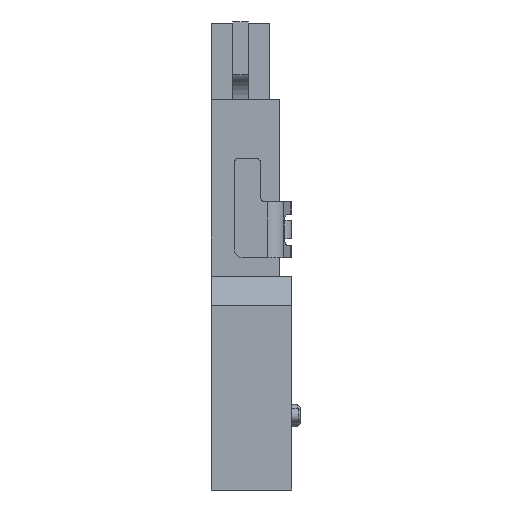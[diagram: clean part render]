
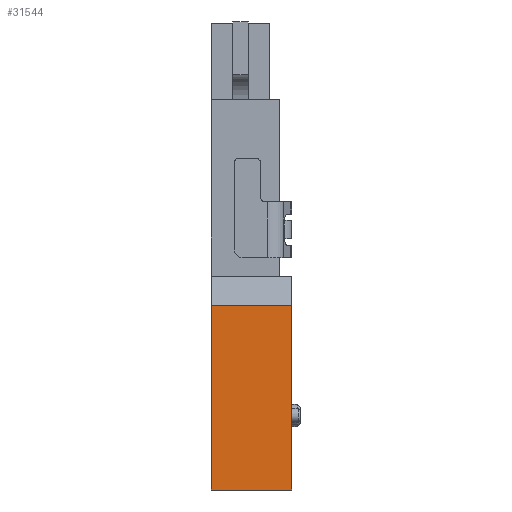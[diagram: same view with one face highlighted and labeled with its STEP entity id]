
A CAD part, left-side view. The second image highlights one B-rep face of the part: STEP entity #31544.
In plain terms, the highlighted planar face has unit normal (-1, 0, 0).
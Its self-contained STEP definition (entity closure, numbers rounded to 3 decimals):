
#31499 = ORIENTED_EDGE ( 'NONE', *, *, #31501, .T. ) ;
#31501 = EDGE_CURVE ( 'NONE', #31537, #31503, #32316, .T. ) ;
#31503 = VERTEX_POINT ( 'NONE', #32308 ) ;
#31505 = ORIENTED_EDGE ( 'NONE', *, *, #31507, .F. ) ;
#31507 = EDGE_CURVE ( 'NONE', #45149, #31503, #32303, .T. ) ;
#31508 = ORIENTED_EDGE ( 'NONE', *, *, #45146, .F. ) ;
#31509 = ORIENTED_EDGE ( 'NONE', *, *, #31540, .T. ) ;
#31537 = VERTEX_POINT ( 'NONE', #32373 ) ;
#31540 = EDGE_CURVE ( 'NONE', #45101, #31537, #32368, .T. ) ;
#31544 = ADVANCED_FACE ( 'NONE', ( #32362 ), #32361, .F. ) ;
#31547 = EDGE_LOOP ( 'NONE', ( #31499, #31505, #31508, #31509 ) ) ;
#32298 = DIRECTION ( 'NONE',  ( 0., -1., 0. ) ) ;
#32300 = VECTOR ( 'NONE', #32298, 1000. ) ;
#32302 = CARTESIAN_POINT ( 'NONE',  ( -35.43, 5.2, 7.077 ) ) ;
#32303 = LINE ( 'NONE', #32302, #32300 ) ;
#32308 = CARTESIAN_POINT ( 'NONE',  ( -35.43, 0., 7.077 ) ) ;
#32311 = DIRECTION ( 'NONE',  ( 0., 0., 1. ) ) ;
#32312 = VECTOR ( 'NONE', #32311, 1000. ) ;
#32314 = CARTESIAN_POINT ( 'NONE',  ( -35.43, 0., -4.8 ) ) ;
#32316 = LINE ( 'NONE', #32314, #32312 ) ;
#32350 = DIRECTION ( 'NONE',  ( 0., 0., -1. ) ) ;
#32351 = DIRECTION ( 'NONE',  ( 1., 0., 0. ) ) ;
#32353 = CARTESIAN_POINT ( 'NONE',  ( -35.43, 5.2, -4.8 ) ) ;
#32359 = AXIS2_PLACEMENT_3D ( 'NONE', #32353, #32351, #32350 ) ;
#32361 = PLANE ( 'NONE',  #32359 ) ;
#32362 = FACE_OUTER_BOUND ( 'NONE', #31547, .T. ) ;
#32364 = DIRECTION ( 'NONE',  ( 0., -1., 0. ) ) ;
#32365 = VECTOR ( 'NONE', #32364, 1000. ) ;
#32366 = CARTESIAN_POINT ( 'NONE',  ( -35.43, 5.2, -4.8 ) ) ;
#32368 = LINE ( 'NONE', #32366, #32365 ) ;
#32373 = CARTESIAN_POINT ( 'NONE',  ( -35.43, 0., -4.8 ) ) ;
#45101 = VERTEX_POINT ( 'NONE', #79327 ) ;
#45146 = EDGE_CURVE ( 'NONE', #45101, #45149, #79474, .T. ) ;
#45149 = VERTEX_POINT ( 'NONE', #79463 ) ;
#79327 = CARTESIAN_POINT ( 'NONE',  ( -35.43, 5.2, -4.8 ) ) ;
#79463 = CARTESIAN_POINT ( 'NONE',  ( -35.43, 5.2, 7.077 ) ) ;
#79470 = DIRECTION ( 'NONE',  ( 0., 0., 1. ) ) ;
#79471 = VECTOR ( 'NONE', #79470, 1000. ) ;
#79473 = CARTESIAN_POINT ( 'NONE',  ( -35.43, 5.2, -4.8 ) ) ;
#79474 = LINE ( 'NONE', #79473, #79471 ) ;
